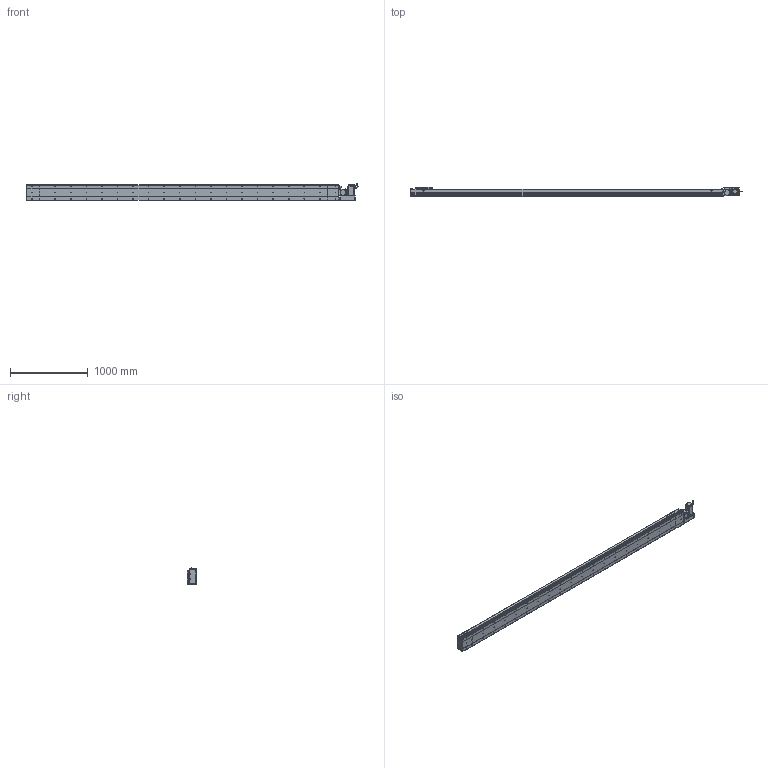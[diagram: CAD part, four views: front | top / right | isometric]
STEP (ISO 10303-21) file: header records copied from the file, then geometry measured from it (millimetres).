
FILE_DESCRIPTION (( 'STEP AP214' ), '1' );
FILE_NAME ('D20 CBH RH S3700.STEP', '2010-06-30T11:06:34', ( 'Conseil Régional Haute-Normandie' ), ( 'Conseil Régional Haute-Normandie' ), 'SwSTEP 2.0', 'SolidWorks 2010', '' );
FILE_SCHEMA (( 'AUTOMOTIVE_DESIGN' ));
Length unit declared in the file: millimetre
Products named in the file (31): corps 90BLDC125A-640; Couvercle_Default; Conecteur2_Default; Conecteur_Default; Corp S3700_Default; Corp D20 S3700_Default; Couvercle S3700_Default; Tail D20+100_Default; Moteur motionking 90BLDC125A-640; ecrou_Default; Support Chariot D20_Default; Chariot D20_Default; Glissiere_Default; avant 90BLDC125A-640; Corp Tail D20+100_Default; D20 CBH RH S3700; Couvercle RH_Default; Plaque de Bout Head D20 RH_Default; Plaque De Serrage D20 RH_Default; Rondelle Cache D20 RH_Default; Support moteur RH_Default; vis M5 L47_Default; vis M5 L30_Default; Cache Support Moteur RH_Default; Plaque de Bout Tail D20_Default; Plaque De Serrage D20_Default; vis M5 L15_Default; Head D20 RH_Default; codeur 90BLDC125-640; Corp Tail D20 RH_Default
Assembly tree (68 placements, depth 4):
  D20 CBH RH S3700
    Tail D20+100_Default
      Corp Tail D20+100_Default
      vis M5 L15_Default  x6
      Couvercle_Default
      Plaque de Bout Tail D20_Default
      Plaque De Serrage D20_Default
    Head D20 RH_Default
      vis M5 L30_Default  x4
      vis M5 L47_Default  x4
      vis M5 L15_Default  x14
      ecrou_Default  x4
      Rondelle Cache D20 RH_Default  x3
      Plaque de Bout Head D20 RH_Default
      Corp Tail D20 RH_Default
      Plaque De Serrage D20 RH_Default
      Couvercle RH_Default
      Support moteur RH_Default
      Moteur motionking 90BLDC125A-640
        avant 90BLDC125A-640
        Conecteur_Default
        codeur 90BLDC125-640
        Conecteur2_Default
        corps 90BLDC125A-640
      Cache Support Moteur RH_Default
    Corp D20 S3700_Default
      Corp S3700_Default
      Couvercle S3700_Default
    Chariot D20_Default
      Support Chariot D20_Default
      vis M5 L15_Default  x8
      Glissiere_Default
      Chariot D20_Default
Bounding box: 4265.45 x 119.5 x 229.7 mm (x, y, z)
Volume: 27663571.7 mm3; surface area: 5283388 mm2
Topology: 105 solids, 105 shells, 3901 faces, 9678 edges, 6286 vertices
Faces by surface type: plane 2158, bspline 806, cylinder 766, torus 95, cone 72, sphere 4
Entity records: 161750 total; most frequent: CARTESIAN_POINT 82697, ORIENTED_EDGE 15624, DIRECTION 12070, EDGE_CURVE 7812, VERTEX_POINT 5170, LINE 5008, VECTOR 5008, AXIS2_PLACEMENT_3D 3531
